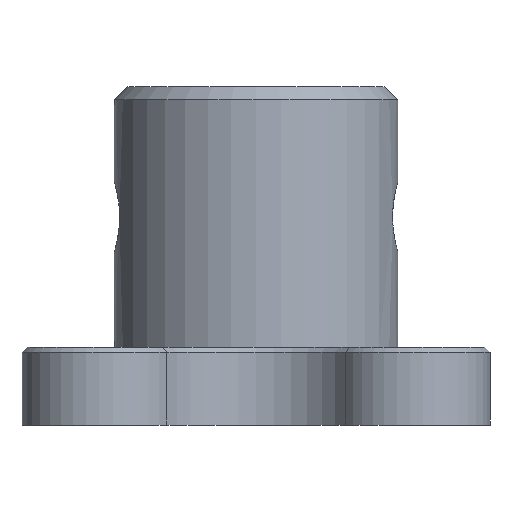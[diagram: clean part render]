
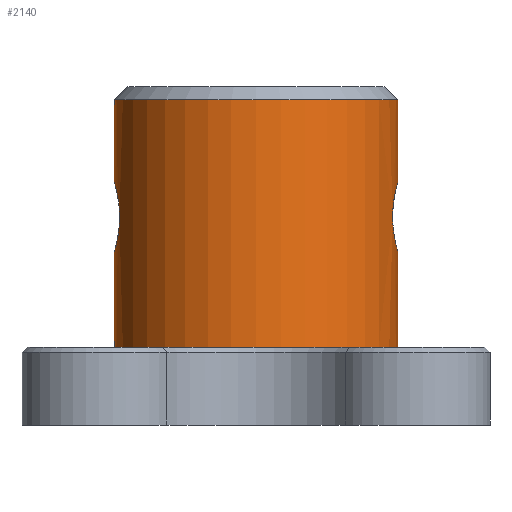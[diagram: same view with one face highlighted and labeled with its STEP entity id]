
A CAD part, front view. The second image highlights one B-rep face of the part: STEP entity #2140.
In plain terms, the highlighted cylindrical face has radius 5.45 mm (diameter 10.9 mm), a partial arc.
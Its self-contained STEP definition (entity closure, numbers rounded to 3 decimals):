
#21 = DIRECTION ( 'NONE',  ( 0., 0., -1. ) ) ;
#65 = AXIS2_PLACEMENT_3D ( 'NONE', #2984, #21, #340 ) ;
#122 = DIRECTION ( 'NONE',  ( 0., 0., -1. ) ) ;
#147 = DIRECTION ( 'NONE',  ( 0., 0., -1. ) ) ;
#151 = CARTESIAN_POINT ( 'NONE',  ( -5.403, -0.735, 9.172 ) ) ;
#175 = ORIENTED_EDGE ( 'NONE', *, *, #429, .T. ) ;
#192 = CARTESIAN_POINT ( 'NONE',  ( -5.45, -0.192, 9.342 ) ) ;
#198 = CARTESIAN_POINT ( 'NONE',  ( 5.302, -1.261, 7.326 ) ) ;
#230 = CARTESIAN_POINT ( 'NONE',  ( 5.45, 0., 3. ) ) ;
#236 = CARTESIAN_POINT ( 'NONE',  ( 5.326, -1.163, 8.825 ) ) ;
#245 = LINE ( 'NONE', #1381, #496 ) ;
#340 = DIRECTION ( 'NONE',  ( 1., 0., 0. ) ) ;
#396 = CARTESIAN_POINT ( 'NONE',  ( -5.45, 0., 6.658 ) ) ;
#401 = CARTESIAN_POINT ( 'NONE',  ( -5.45, -0.023, 6.658 ) ) ;
#419 = CARTESIAN_POINT ( 'NONE',  ( -5.438, -0.379, 6.701 ) ) ;
#429 = EDGE_CURVE ( 'NONE', #583, #2250, #1941, .T. ) ;
#440 = CARTESIAN_POINT ( 'NONE',  ( -5.43, -0.471, 6.727 ) ) ;
#496 = VECTOR ( 'NONE', #3158, 1000. ) ;
#526 = CARTESIAN_POINT ( 'NONE',  ( 5.263, -1.416, 7.647 ) ) ;
#583 = VERTEX_POINT ( 'NONE', #2597 ) ;
#601 = ORIENTED_EDGE ( 'NONE', *, *, #2712, .F. ) ;
#607 = EDGE_CURVE ( 'NONE', #2219, #747, #3760, .T. ) ;
#691 = CARTESIAN_POINT ( 'NONE',  ( -5.252, -1.454, 8.178 ) ) ;
#710 = B_SPLINE_CURVE_WITH_KNOTS ( 'NONE', 3,
 ( #1990, #1926, #3396, #3703, #3108, #3169, #2010, #198, #3433, #526, #1636, #797, #1968, #2878, #236, #1067, #1412, #778, #3126, #2838 ),
 .UNSPECIFIED., .F., .F.,
 ( 4, 2, 2, 2, 2, 2, 2, 2, 2, 4 ),
 ( 0., 0.062, 0.125, 0.156, 0.187, 0.25, 0.312, 0.375, 0.437, 0.5 ),
 .UNSPECIFIED. ) ;
#713 = CARTESIAN_POINT ( 'NONE',  ( -5.449, -0.096, 6.66 ) ) ;
#731 = CARTESIAN_POINT ( 'NONE',  ( -5.378, -0.895, 6.927 ) ) ;
#747 = VERTEX_POINT ( 'NONE', #230 ) ;
#771 = CARTESIAN_POINT ( 'NONE',  ( -5.45, 0., 9.342 ) ) ;
#778 = CARTESIAN_POINT ( 'NONE',  ( 5.439, -0.382, 9.307 ) ) ;
#797 = CARTESIAN_POINT ( 'NONE',  ( 5.252, -1.455, 8.177 ) ) ;
#918 = CARTESIAN_POINT ( 'NONE',  ( 5.45, 0., 9.342 ) ) ;
#982 = CARTESIAN_POINT ( 'NONE',  ( -5.302, -1.261, 8.674 ) ) ;
#1018 = VERTEX_POINT ( 'NONE', #918 ) ;
#1040 = CARTESIAN_POINT ( 'NONE',  ( -5.339, -1.096, 8.886 ) ) ;
#1067 = CARTESIAN_POINT ( 'NONE',  ( 5.378, -0.895, 9.073 ) ) ;
#1080 = LINE ( 'NONE', #1365, #2649 ) ;
#1084 = CARTESIAN_POINT ( 'NONE',  ( 5.45, 0., 13. ) ) ;
#1161 = CARTESIAN_POINT ( 'NONE',  ( 0., 0., 3. ) ) ;
#1283 = LINE ( 'NONE', #2451, #2462 ) ;
#1291 = CARTESIAN_POINT ( 'NONE',  ( -5.45, 0., 6.658 ) ) ;
#1341 = VERTEX_POINT ( 'NONE', #3364 ) ;
#1365 = CARTESIAN_POINT ( 'NONE',  ( -5.45, 0., 13. ) ) ;
#1367 = CARTESIAN_POINT ( 'NONE',  ( -5.326, -1.156, 8.819 ) ) ;
#1381 = CARTESIAN_POINT ( 'NONE',  ( 5.45, 0., 13. ) ) ;
#1412 = CARTESIAN_POINT ( 'NONE',  ( 5.403, -0.735, 9.172 ) ) ;
#1452 = ORIENTED_EDGE ( 'NONE', *, *, #3023, .T. ) ;
#1537 = AXIS2_PLACEMENT_3D ( 'NONE', #2764, #147, #2495 ) ;
#1572 = CARTESIAN_POINT ( 'NONE',  ( -5.378, -0.894, 9.073 ) ) ;
#1595 = ORIENTED_EDGE ( 'NONE', *, *, #1949, .T. ) ;
#1636 = CARTESIAN_POINT ( 'NONE',  ( 5.252, -1.454, 7.822 ) ) ;
#1650 = CARTESIAN_POINT ( 'NONE',  ( -5.44, -0.382, 9.307 ) ) ;
#1680 = ORIENTED_EDGE ( 'NONE', *, *, #2419, .T. ) ;
#1771 = EDGE_CURVE ( 'NONE', #1341, #747, #245, .T. ) ;
#1863 = CARTESIAN_POINT ( 'NONE',  ( -5.403, -0.735, 6.828 ) ) ;
#1880 = CARTESIAN_POINT ( 'NONE',  ( -5.252, -1.455, 7.823 ) ) ;
#1920 = CARTESIAN_POINT ( 'NONE',  ( -5.45, -0.048, 6.658 ) ) ;
#1926 = CARTESIAN_POINT ( 'NONE',  ( 5.45, -0.192, 6.658 ) ) ;
#1940 = CARTESIAN_POINT ( 'NONE',  ( -5.449, -0.119, 6.662 ) ) ;
#1941 = B_SPLINE_CURVE_WITH_KNOTS ( 'NONE', 3,
 ( #771, #192, #1650, #151, #1572, #1040, #1367, #982, #2196, #3369, #691, #1880, #2214, #2498, #3390, #731, #1863, #440, #419, #3046, #2748, #1940, #713, #1920, #401, #1291 ),
 .UNSPECIFIED., .F., .F.,
 ( 4, 2, 2, 2, 2, 2, 2, 2, 2, 2, 2, 2, 4 ),
 ( 0., 0.062, 0.125, 0.156, 0.187, 0.25, 0.312, 0.375, 0.437, 0.469, 0.484, 0.492, 0.5 ),
 .UNSPECIFIED. ) ;
#1949 = EDGE_CURVE ( 'NONE', #3722, #3495, #3576, .T. ) ;
#1959 = DIRECTION ( 'NONE',  ( 0., 0., -1. ) ) ;
#1960 = CARTESIAN_POINT ( 'NONE',  ( -5.45, 0., 12.5 ) ) ;
#1968 = CARTESIAN_POINT ( 'NONE',  ( 5.263, -1.416, 8.352 ) ) ;
#1990 = CARTESIAN_POINT ( 'NONE',  ( 5.45, 0., 6.658 ) ) ;
#2010 = CARTESIAN_POINT ( 'NONE',  ( 5.326, -1.156, 7.181 ) ) ;
#2140 = ADVANCED_FACE ( 'NONE', ( #3099 ), #3672, .T. ) ;
#2196 = CARTESIAN_POINT ( 'NONE',  ( -5.291, -1.307, 8.596 ) ) ;
#2214 = CARTESIAN_POINT ( 'NONE',  ( -5.263, -1.416, 7.648 ) ) ;
#2215 = DIRECTION ( 'NONE',  ( 0., 0., -1. ) ) ;
#2219 = VERTEX_POINT ( 'NONE', #3385 ) ;
#2250 = VERTEX_POINT ( 'NONE', #396 ) ;
#2419 = EDGE_CURVE ( 'NONE', #1341, #1018, #710, .T. ) ;
#2451 = CARTESIAN_POINT ( 'NONE',  ( -5.45, 0., 13. ) ) ;
#2462 = VECTOR ( 'NONE', #122, 1000. ) ;
#2495 = DIRECTION ( 'NONE',  ( -1., 0., 0. ) ) ;
#2498 = CARTESIAN_POINT ( 'NONE',  ( -5.3, -1.271, 7.324 ) ) ;
#2510 = CARTESIAN_POINT ( 'NONE',  ( 5.45, 0., 12.5 ) ) ;
#2514 = AXIS2_PLACEMENT_3D ( 'NONE', #1161, #3220, #2929 ) ;
#2557 = LINE ( 'NONE', #1084, #2773 ) ;
#2597 = CARTESIAN_POINT ( 'NONE',  ( -5.45, 0., 9.342 ) ) ;
#2637 = ORIENTED_EDGE ( 'NONE', *, *, #607, .T. ) ;
#2649 = VECTOR ( 'NONE', #1959, 1000. ) ;
#2712 = EDGE_CURVE ( 'NONE', #3722, #1018, #2557, .T. ) ;
#2748 = CARTESIAN_POINT ( 'NONE',  ( -5.447, -0.191, 6.668 ) ) ;
#2764 = CARTESIAN_POINT ( 'NONE',  ( 0., 0., 13. ) ) ;
#2773 = VECTOR ( 'NONE', #2215, 1000. ) ;
#2838 = CARTESIAN_POINT ( 'NONE',  ( 5.45, 0., 9.342 ) ) ;
#2878 = CARTESIAN_POINT ( 'NONE',  ( 5.3, -1.271, 8.676 ) ) ;
#2929 = DIRECTION ( 'NONE',  ( 1., 0., 0. ) ) ;
#2973 = ORIENTED_EDGE ( 'NONE', *, *, #1771, .F. ) ;
#2984 = CARTESIAN_POINT ( 'NONE',  ( 0., 0., 12.5 ) ) ;
#3023 = EDGE_CURVE ( 'NONE', #3495, #583, #1080, .T. ) ;
#3046 = CARTESIAN_POINT ( 'NONE',  ( -5.445, -0.239, 6.675 ) ) ;
#3099 = FACE_OUTER_BOUND ( 'NONE', #3196, .T. ) ;
#3108 = CARTESIAN_POINT ( 'NONE',  ( 5.378, -0.894, 6.927 ) ) ;
#3126 = CARTESIAN_POINT ( 'NONE',  ( 5.45, -0.192, 9.342 ) ) ;
#3158 = DIRECTION ( 'NONE',  ( 0., 0., -1. ) ) ;
#3169 = CARTESIAN_POINT ( 'NONE',  ( 5.339, -1.096, 7.114 ) ) ;
#3196 = EDGE_LOOP ( 'NONE', ( #601, #1595, #1452, #175, #3786, #2637, #2973, #1680 ) ) ;
#3220 = DIRECTION ( 'NONE',  ( 0., 0., 1. ) ) ;
#3307 = EDGE_CURVE ( 'NONE', #2250, #2219, #1283, .T. ) ;
#3364 = CARTESIAN_POINT ( 'NONE',  ( 5.45, 0., 6.658 ) ) ;
#3369 = CARTESIAN_POINT ( 'NONE',  ( -5.263, -1.416, 8.353 ) ) ;
#3385 = CARTESIAN_POINT ( 'NONE',  ( -5.45, 0., 3. ) ) ;
#3390 = CARTESIAN_POINT ( 'NONE',  ( -5.326, -1.163, 7.175 ) ) ;
#3396 = CARTESIAN_POINT ( 'NONE',  ( 5.44, -0.382, 6.693 ) ) ;
#3433 = CARTESIAN_POINT ( 'NONE',  ( 5.291, -1.307, 7.404 ) ) ;
#3495 = VERTEX_POINT ( 'NONE', #1960 ) ;
#3576 = CIRCLE ( 'NONE', #65, 5.45 ) ;
#3672 = CYLINDRICAL_SURFACE ( 'NONE', #1537, 5.45 ) ;
#3703 = CARTESIAN_POINT ( 'NONE',  ( 5.403, -0.735, 6.828 ) ) ;
#3722 = VERTEX_POINT ( 'NONE', #2510 ) ;
#3760 = CIRCLE ( 'NONE', #2514, 5.45 ) ;
#3786 = ORIENTED_EDGE ( 'NONE', *, *, #3307, .T. ) ;
